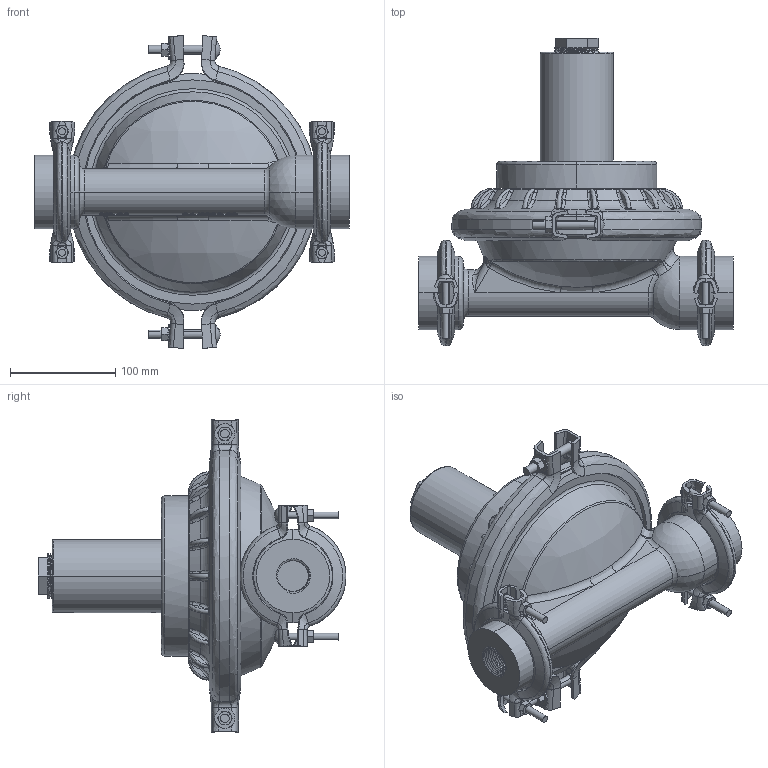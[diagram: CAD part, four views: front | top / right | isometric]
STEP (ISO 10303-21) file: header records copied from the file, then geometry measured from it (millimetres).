
FILE_DESCRIPTION (( 'STEP AP203' ), '1' );
FILE_NAME ('XSD1_SSAA.STEP', '2022-06-22T04:50:08', ( '' ), ( '' ), 'SwSTEP 2.0', 'SolidWorks 2019', '' );
FILE_SCHEMA (( 'CONFIG_CONTROL_DESIGN' ));
Length unit declared in the file: inch
Products named in the file (1): XSD1_SSAA
Bounding box: 298.96 x 292.75 x 297.65 mm (x, y, z)
Volume: 4162149.3 mm3; surface area: 377288.5 mm2
Topology: 1 solids, 1 shells, 2734 faces, 7263 edges, 4599 vertices
Faces by surface type: plane 1642, bspline 552, cylinder 229, cone 192, torus 101, sphere 18
Entity records: 188614 total; most frequent: CARTESIAN_POINT 126342, ORIENTED_EDGE 14506, DIRECTION 10394, EDGE_CURVE 7253, VERTEX_POINT 4597, LINE 4156, VECTOR 4156, AXIS2_PLACEMENT_3D 3119
